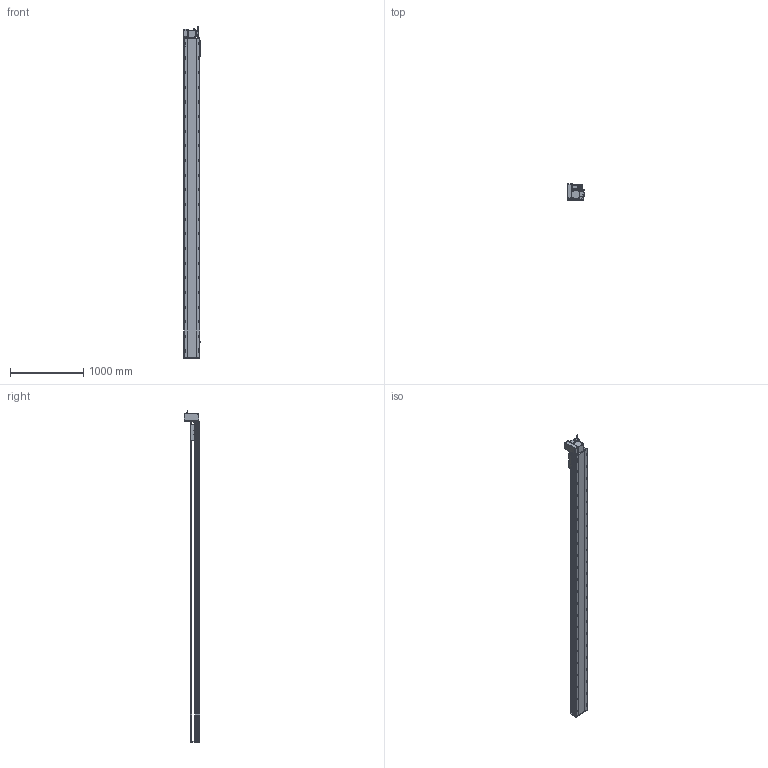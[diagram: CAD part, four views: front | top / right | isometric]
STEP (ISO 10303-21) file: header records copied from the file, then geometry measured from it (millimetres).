
FILE_DESCRIPTION (( 'STEP AP214' ), '1' );
FILE_NAME ('RTB22S-XX-4000-LW-M75-C4.STEP', '2025-12-12T07:11:11', ( '' ), ( '' ), 'SwSTEP 2.0', 'SolidWorks 2018', '' );
FILE_SCHEMA (( 'AUTOMOTIVE_DESIGN' ));
Length unit declared in the file: millimetre
Products named in the file (14): RTB22S-GY-018P^RTB22S-LW-々湍釱蚾饜_RTB22S-XX-XX-LW-M75-C4; RTB22S-GY-001耜裔^RTB22S-XX-XX-LW-M75-C4; OMRON EE-SX672 传感器^RTB22S-XX-XX-LW-M75-C4; RTB22S-GY-007奻裔^RTB22S-XX-XX-LW-M75-C4; RTB22S-L-004賑釱^RTB22S-XX-XX-LW-M75-C4; 750W萇儂^RTB22S-XX-XX-LW-M75-C4; RTB22S-GY-017P^RTB22S-LW-々湍釱蚾饜_RTB22S-XX-XX-LW-M75-C4; RTB22S-GY-008-M75--萇儂啣^RTB22S-LW-々湍釱蚾饜_RTB22S-XX-XX-LW-M75-C4; RTB22S-XX-4000-LW-M75-C4; RTB22S-LW-々湍釱蚾饜^RTB22S-XX-XX-LW-M75-C4; RTB22S-GY-014--々湍釱^RTB22S-LW-々湍釱蚾饜_RTB22S-XX-XX-LW-M75-C4; RTB22S-GY-005P^RTB22S-LW-々湍釱蚾饜_RTB22S-XX-XX-LW-M75-C4; RTB22S-L-011菁釱^RTB22S-XX-XX-LW-M75-C4; RTH22-GY-013外置感应片^RTB22S-XX-XX-LW-M75-C4
Assembly tree (16 placements, depth 3):
  RTB22S-XX-4000-LW-M75-C4
    RTB22S-L-011菁釱^RTB22S-XX-XX-LW-M75-C4
    RTB22S-GY-001耜裔^RTB22S-XX-XX-LW-M75-C4
    750W萇儂^RTB22S-XX-XX-LW-M75-C4
    RTB22S-GY-007奻裔^RTB22S-XX-XX-LW-M75-C4
    RTB22S-L-004賑釱^RTB22S-XX-XX-LW-M75-C4
    RTH22-GY-013外置感应片^RTB22S-XX-XX-LW-M75-C4
    OMRON EE-SX672 传感器^RTB22S-XX-XX-LW-M75-C4  x3
    RTB22S-LW-々湍釱蚾饜^RTB22S-XX-XX-LW-M75-C4
      RTB22S-GY-014--々湍釱^RTB22S-LW-々湍釱蚾饜_RTB22S-XX-XX-LW-M75-C4
      RTB22S-GY-017P^RTB22S-LW-々湍釱蚾饜_RTB22S-XX-XX-LW-M75-C4  x2
      RTB22S-GY-005P^RTB22S-LW-々湍釱蚾饜_RTB22S-XX-XX-LW-M75-C4
      RTB22S-GY-008-M75--萇儂啣^RTB22S-LW-々湍釱蚾饜_RTB22S-XX-XX-LW-M75-C4
      RTB22S-GY-018P^RTB22S-LW-々湍釱蚾饜_RTB22S-XX-XX-LW-M75-C4
Bounding box: 238.5 x 215.5 x 4532.2 mm (x, y, z)
Volume: 56242580.9 mm3; surface area: 5710263.3 mm2
Topology: 15 solids, 15 shells, 2235 faces, 6086 edges, 3872 vertices
Faces by surface type: plane 943, cylinder 790, bspline 296, cone 194, sphere 8, torus 4
Entity records: 61980 total; most frequent: CARTESIAN_POINT 17244, ORIENTED_EDGE 8848, DIRECTION 8758, EDGE_CURVE 4424, AXIS2_PLACEMENT_3D 3182, VERTEX_POINT 2876, VECTOR 2394, LINE 2394
